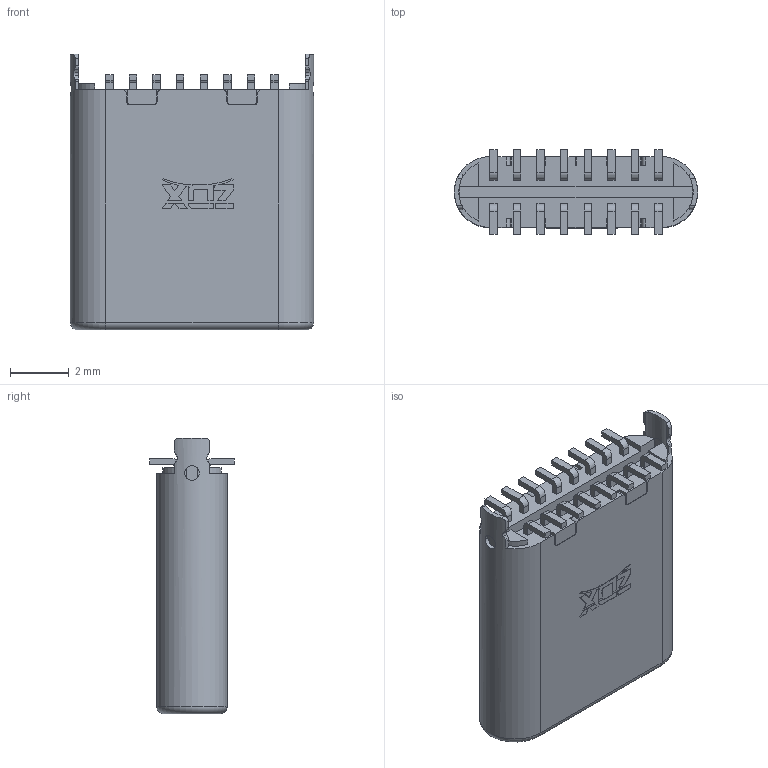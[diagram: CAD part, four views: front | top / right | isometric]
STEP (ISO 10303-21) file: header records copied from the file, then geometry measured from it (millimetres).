
FILE_DESCRIPTION((''),'2;1');
FILE_NAME('ASM0001_ASM','2024-01-28T',('WYH'),(''),'PRO/ENGINEER BY PARAMETRIC TECHNOLOGY CORPORATION, 2013040','PRO/ENGINEER BY PARAMETRIC TECHNOLOGY CORPORATION, 2013040','');
FILE_SCHEMA(('CONFIG_CONTROL_DESIGN'));
Length unit declared in the file: millimetre
Products named in the file (1): ASM0001_ASM
Bounding box: 8.25 x 2.88 x 9.35 mm (x, y, z)
Volume: 105.9 mm3; surface area: 660.4 mm2
Topology: 9 solids, 11 shells, 1434 faces, 4281 edges, 2855 vertices
Faces by surface type: plane 1107, cylinder 311, cone 12, torus 4
Entity records: 48585 total; most frequent: CARTESIAN_POINT 9817, ORIENTED_EDGE 8562, DIRECTION 7484, EDGE_CURVE 4281, VECTOR 3410, LINE 3410, VERTEX_POINT 2855, AXIS2_PLACEMENT_3D 2037
